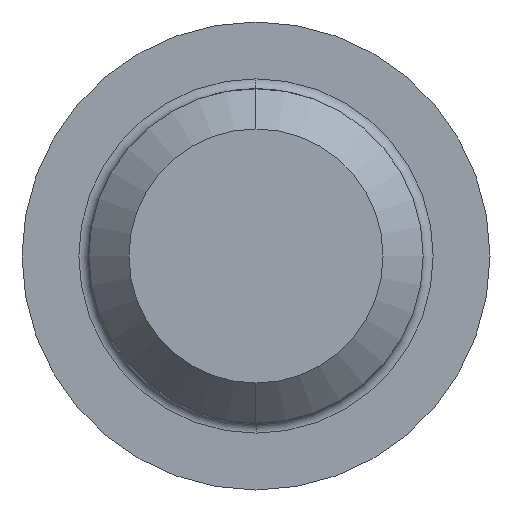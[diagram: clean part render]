
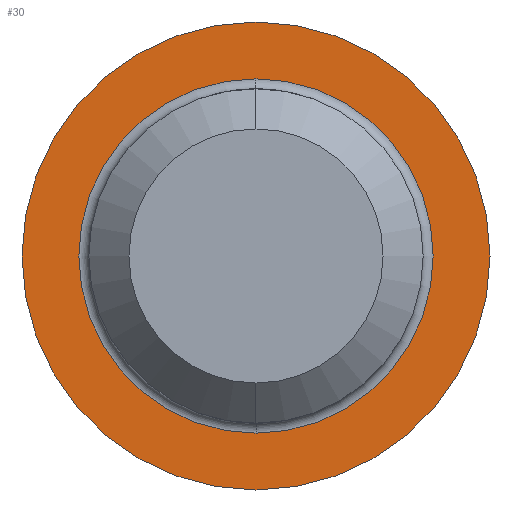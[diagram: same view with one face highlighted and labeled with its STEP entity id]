
A CAD part, left-side view. The second image highlights one B-rep face of the part: STEP entity #30.
In plain terms, the highlighted planar face has unit normal (-1, 0, 0).
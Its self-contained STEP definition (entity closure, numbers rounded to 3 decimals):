
#1 = AXIS2_PLACEMENT_3D ( 'NONE', #8, #3, #2 ) ;
#2 = DIRECTION ( 'NONE',  ( 0., 0., -1. ) ) ;
#3 = DIRECTION ( 'NONE',  ( 1., 0., 0. ) ) ;
#5 = CIRCLE ( 'NONE', #1, 5.3 ) ;
#8 = CARTESIAN_POINT ( 'NONE',  ( 0., 0., 0. ) ) ;
#27 = EDGE_CURVE ( 'NONE', #180, #85, #388, .T. ) ;
#30 = ADVANCED_FACE ( 'NONE', ( #385, #380 ), #216, .F. ) ;
#48 = ORIENTED_EDGE ( 'NONE', *, *, #143, .T. ) ;
#61 = ORIENTED_EDGE ( 'NONE', *, *, #81, .T. ) ;
#69 = CIRCLE ( 'NONE', #168, 5.3 ) ;
#81 = EDGE_CURVE ( 'NONE', #85, #180, #198, .T. ) ;
#85 = VERTEX_POINT ( 'NONE', #301 ) ;
#87 = EDGE_LOOP ( 'NONE', ( #48, #142 ) ) ;
#100 = ORIENTED_EDGE ( 'NONE', *, *, #27, .T. ) ;
#142 = ORIENTED_EDGE ( 'NONE', *, *, #146, .T. ) ;
#143 = EDGE_CURVE ( 'NONE', #148, #147, #69, .T. ) ;
#144 = EDGE_LOOP ( 'NONE', ( #61, #100 ) ) ;
#146 = EDGE_CURVE ( 'NONE', #147, #148, #5, .T. ) ;
#147 = VERTEX_POINT ( 'NONE', #485 ) ;
#148 = VERTEX_POINT ( 'NONE', #437 ) ;
#165 = DIRECTION ( 'NONE',  ( 0., 0., -1. ) ) ;
#166 = DIRECTION ( 'NONE',  ( 1., 0., 0. ) ) ;
#167 = CARTESIAN_POINT ( 'NONE',  ( 0., 0., 0. ) ) ;
#168 = AXIS2_PLACEMENT_3D ( 'NONE', #167, #166, #165 ) ;
#180 = VERTEX_POINT ( 'NONE', #444 ) ;
#193 = CARTESIAN_POINT ( 'NONE',  ( 0., 0., 0. ) ) ;
#198 = CIRCLE ( 'NONE', #296, 7. ) ;
#216 = PLANE ( 'NONE',  #392 ) ;
#248 = DIRECTION ( 'NONE',  ( 0., 0., -1. ) ) ;
#249 = DIRECTION ( 'NONE',  ( 1., 0., 0. ) ) ;
#250 = CARTESIAN_POINT ( 'NONE',  ( 0., 7., 0. ) ) ;
#294 = DIRECTION ( 'NONE',  ( 0., 0., 1. ) ) ;
#295 = DIRECTION ( 'NONE',  ( -1., 0., 0. ) ) ;
#296 = AXIS2_PLACEMENT_3D ( 'NONE', #193, #295, #294 ) ;
#301 = CARTESIAN_POINT ( 'NONE',  ( 0., 0., 7. ) ) ;
#377 = DIRECTION ( 'NONE',  ( 0., 0., 1. ) ) ;
#378 = DIRECTION ( 'NONE',  ( -1., 0., 0. ) ) ;
#380 = FACE_OUTER_BOUND ( 'NONE', #144, .T. ) ;
#383 = AXIS2_PLACEMENT_3D ( 'NONE', #384, #378, #377 ) ;
#384 = CARTESIAN_POINT ( 'NONE',  ( 0., 0., 0. ) ) ;
#385 = FACE_BOUND ( 'NONE', #87, .T. ) ;
#388 = CIRCLE ( 'NONE', #383, 7. ) ;
#392 = AXIS2_PLACEMENT_3D ( 'NONE', #250, #249, #248 ) ;
#437 = CARTESIAN_POINT ( 'NONE',  ( 0., 0., -5.3 ) ) ;
#444 = CARTESIAN_POINT ( 'NONE',  ( 0., 0., -7. ) ) ;
#485 = CARTESIAN_POINT ( 'NONE',  ( 0., 0., 5.3 ) ) ;
